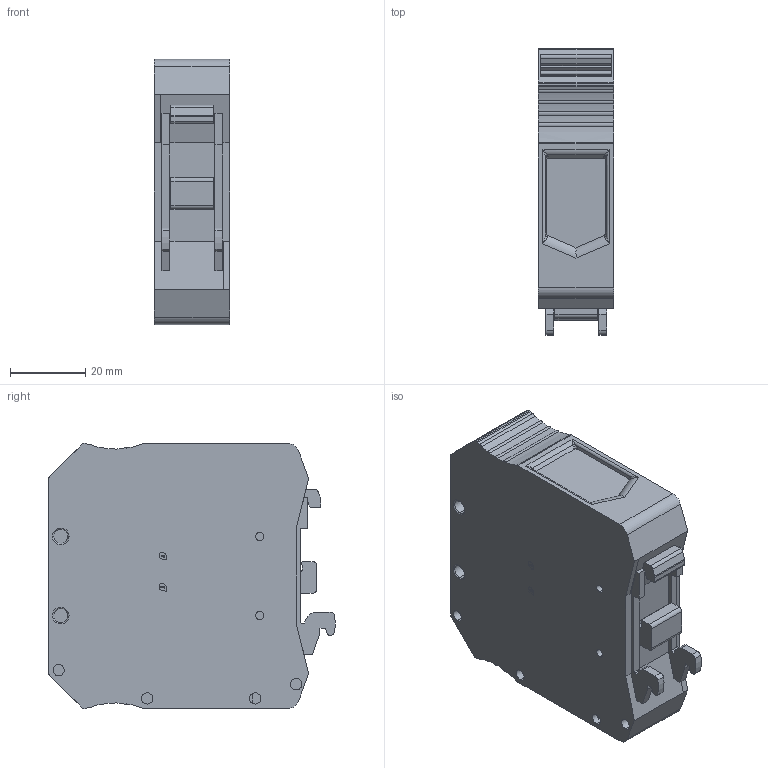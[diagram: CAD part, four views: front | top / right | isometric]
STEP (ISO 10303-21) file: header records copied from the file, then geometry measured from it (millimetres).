
FILE_DESCRIPTION((''),'2;1');
FILE_NAME('DC50-PE-01P-1Y-00A_H_-B_ASM','2022-03-15T',('Administrator'),(''),'PRO/ENGINEER BY PARAMETRIC TECHNOLOGY CORPORATION, 2010280','PRO/ENGINEER BY PARAMETRIC TECHNOLOGY CORPORATION, 2010280','');
FILE_SCHEMA(('CONFIG_CONTROL_DESIGN'));
Length unit declared in the file: millimetre
Products named in the file (1): DC50-PE-01P-1Y-00A_H_-B_ASM
Bounding box: 20.11 x 76.04 x 70.45 mm (x, y, z)
Volume: 65131 mm3; surface area: 35599.1 mm2
Topology: 1 solids, 32 shells, 1173 faces, 3256 edges, 2163 vertices
Faces by surface type: plane 724, cylinder 315, torus 60, cone 46, bspline 26, sphere 2
Entity records: 38647 total; most frequent: CARTESIAN_POINT 8274, ORIENTED_EDGE 6504, DIRECTION 6108, EDGE_CURVE 3252, VECTOR 2284, LINE 2284, VERTEX_POINT 2163, AXIS2_PLACEMENT_3D 1912
